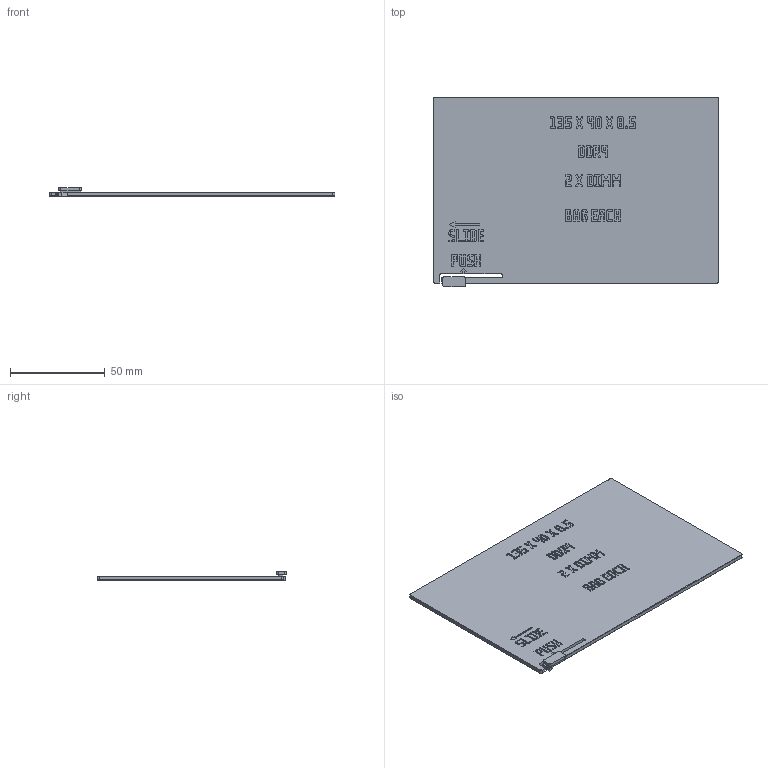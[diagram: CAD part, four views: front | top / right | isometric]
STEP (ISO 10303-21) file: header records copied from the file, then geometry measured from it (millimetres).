
FILE_DESCRIPTION(('Open CASCADE Model'),'2;1');
FILE_NAME('Sliding lid','2026-11-03T10:07:21',('Author'),('Open CASCADE' ),'Open CASCADE STEP processor 8.0','build123d','Unknown');
FILE_SCHEMA(('AUTOMOTIVE_DESIGN { 1 0 10303 214 1 1 1 1 }'));
Products named in the file (1): Sliding lid
Bounding box: 150.5 x 100 x 4.5 mm (x, y, z)
Volume: 32265.1 mm3; surface area: 31200.4 mm2
Topology: 1 solids, 1 shells, 3456 faces, 10188 edges, 6786 vertices
Faces by surface type: plane 3433, cylinder 15, cone 8
Entity records: 238478 total; most frequent: CARTESIAN_POINT 47739, DIRECTION 30734, LINE 23744, VECTOR 23744, ORIENTED_EDGE 20376, PCURVE 20376, DEFINITIONAL_REPRESENTATION 20376, EDGE_CURVE 10188
